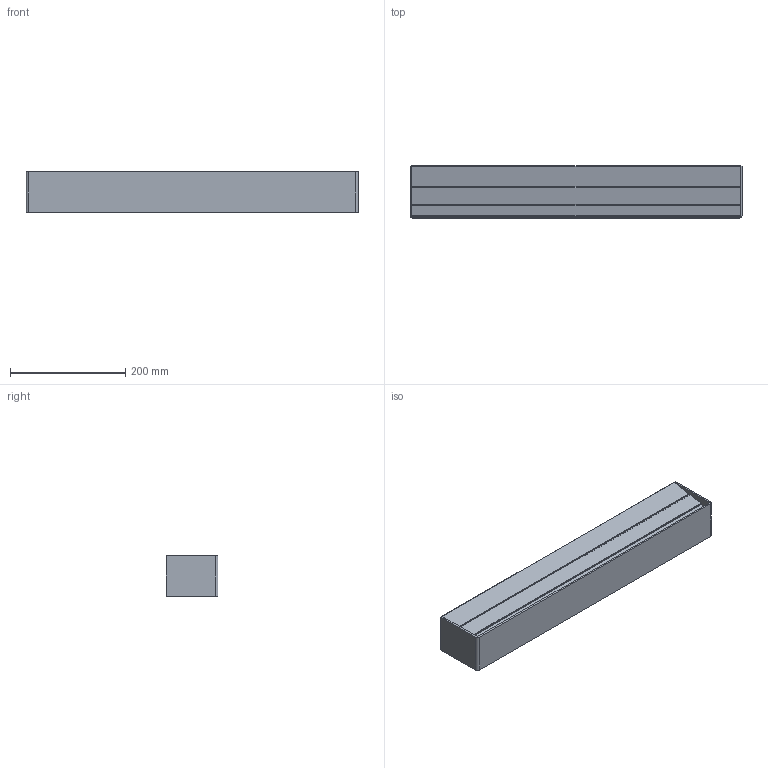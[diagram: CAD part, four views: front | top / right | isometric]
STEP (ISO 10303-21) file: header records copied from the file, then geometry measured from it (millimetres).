
FILE_DESCRIPTION(/* description */ (''),/* implementation_level */ '2;1');
FILE_NAME(/* name */ 'A-141_~4',/* time_stamp */ '2024-07-04T10:19:06+02:00',/* author */ (''),/* organization */ (''),/* preprocessor_version */ 'ST-DEVELOPER v16.5',/* originating_system */ '',/* authorisation */ '');
FILE_SCHEMA (('AUTOMOTIVE_DESIGN'));
Length unit declared in the file: millimetre
Products named in the file (1): Document
Bounding box: 576.5 x 90.24 x 70 mm (x, y, z)
Volume: 204676.8 mm3; surface area: 355472.5 mm2
Topology: 3 solids, 4 shells, 71 faces, 168 edges, 104 vertices
Faces by surface type: plane 41, bspline 30
Entity records: 2495 total; most frequent: CARTESIAN_POINT 1392, ORIENTED_EDGE 328, EDGE_CURVE 168, B_SPLINE_CURVE_WITH_KNOTS 120, VERTEX_POINT 104, EDGE_LOOP 74, ADVANCED_FACE 71, FACE_OUTER_BOUND 71
